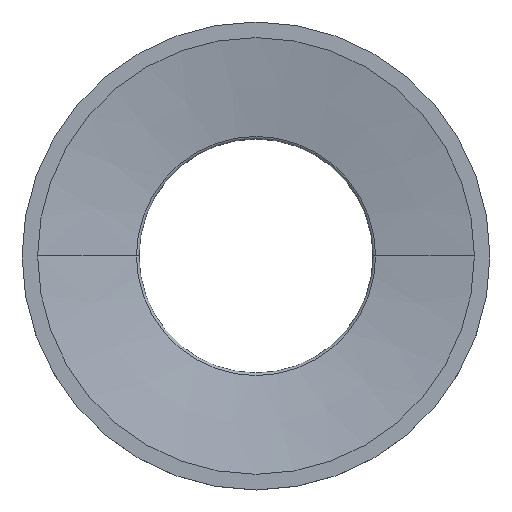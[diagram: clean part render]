
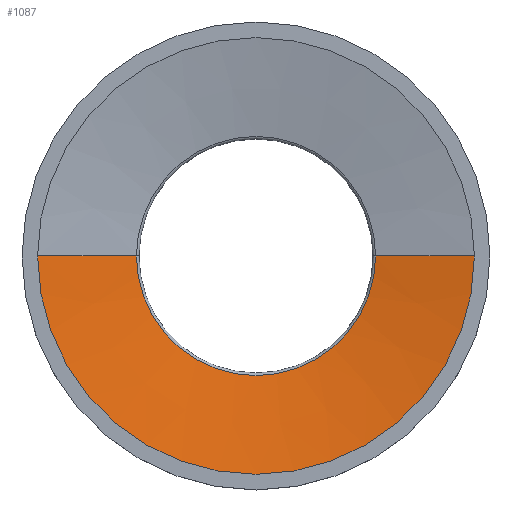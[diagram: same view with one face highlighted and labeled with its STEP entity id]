
A CAD part, top view. The second image highlights one B-rep face of the part: STEP entity #1087.
In plain terms, the highlighted conical face has half-angle 80 degrees and reference radius 108.326 mm.
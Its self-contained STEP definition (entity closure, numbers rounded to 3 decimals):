
#147=CARTESIAN_POINT('',(0.,0.,
18.83));
#148=DIRECTION('',(0.,0.,1.));
#149=DIRECTION('',(-1.,0.,0.));
#150=AXIS2_PLACEMENT_3D('',#147,#148,#149);
#152=DIRECTION('',(-0.985,0.,-0.174));
#153=VECTOR('',#152,64.325);
#154=CARTESIAN_POINT('',(140.,0.,30.));
#155=LINE('',#154,#153);
#161=DIRECTION('',(0.985,0.,-0.174));
#162=VECTOR('',#161,64.325);
#163=CARTESIAN_POINT('',(-140.,0.,
30.));
#164=LINE('',#163,#162);
#175=CARTESIAN_POINT('',(0.,0.,
30.));
#176=DIRECTION('',(0.,0.,-1.));
#177=DIRECTION('',(1.,0.,0.));
#178=AXIS2_PLACEMENT_3D('',#175,#176,#177);
#735=CARTESIAN_POINT('',(140.,0.,
30.));
#736=CARTESIAN_POINT('',(-140.,0.,
30.));
#737=VERTEX_POINT('',#735);
#738=VERTEX_POINT('',#736);
#743=CARTESIAN_POINT('',(-76.653,0.,
18.83));
#744=CARTESIAN_POINT('',(76.653,0.,18.83));
#745=VERTEX_POINT('',#743);
#746=VERTEX_POINT('',#744);
#1073=CARTESIAN_POINT('',(0.,0.,
24.415));
#1074=DIRECTION('',(0.,0.,1.));
#1075=DIRECTION('',(0.,-1.,0.));
#1076=AXIS2_PLACEMENT_3D('',#1073,#1074,#1075);
#1077=CONICAL_SURFACE('',#1076,108.326,80.);
#1078=ORIENTED_EDGE('',*,*,#1067,.T.);
#1080=ORIENTED_EDGE('',*,*,#1079,.F.);
#1082=ORIENTED_EDGE('',*,*,#1081,.T.);
#1084=ORIENTED_EDGE('',*,*,#1083,.T.);
#1085=EDGE_LOOP('',(#1078,#1080,#1082,#1084));
#1086=FACE_OUTER_BOUND('',#1085,.F.);
#151=CIRCLE('',#150,76.653);
#179=CIRCLE('',#178,140.);
#1067=EDGE_CURVE('',#745,#746,#151,.T.);
#1079=EDGE_CURVE('',#737,#746,#155,.T.);
#1081=EDGE_CURVE('',#737,#738,#179,.T.);
#1083=EDGE_CURVE('',#738,#745,#164,.T.);
#1087=ADVANCED_FACE('',(#1086),#1077,.F.);
